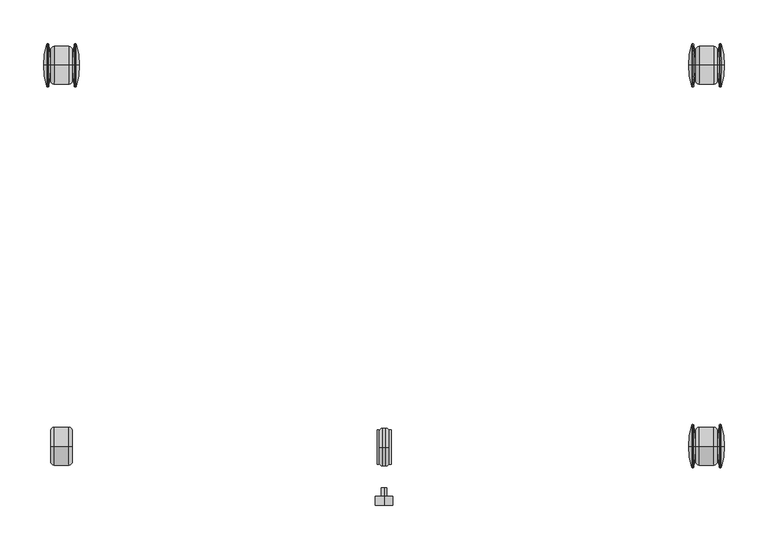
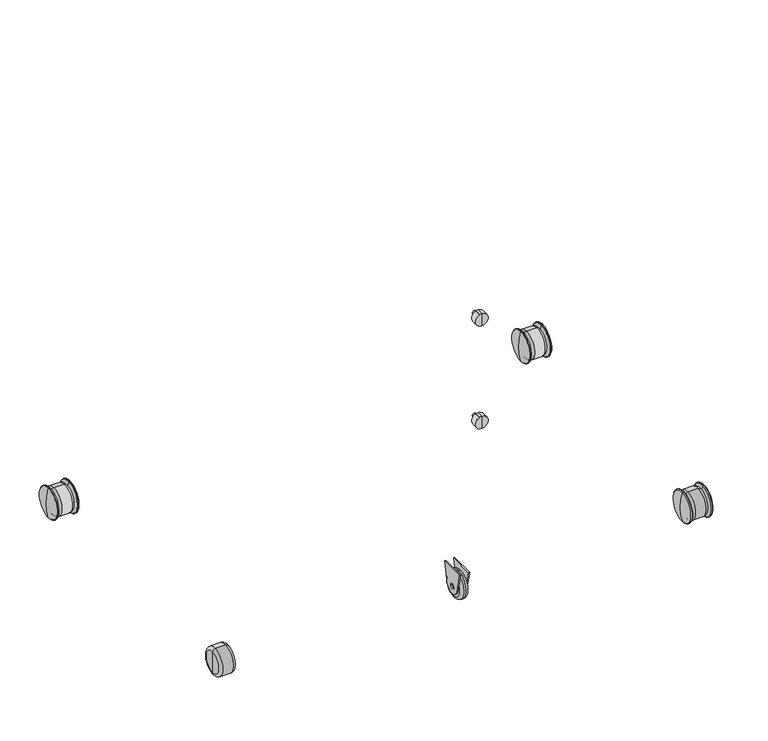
"""IFC4 building model written with IfcOpenShell, lengths in millimetres: furniture geometry, 邊櫃_002 : DB 3020N 01 W465*D550*H650."""

from ifc_helpers import new_model, si_unit, point, frame, frame_2d, origin, place, context, project, spatial, polyline, circle_curve, ellipse_curve, trimmed, segment, composite_curve, outline, extrude, source, transform, mapped, element, save
from ifc_brep_helpers import plane_surface, cylinder_surface, revolved_surface, advanced_brep


def furniture_f24e557b(model_context):
    return source(origin(), model_context, "Body", "SolidModel", [
        advanced_brep(
        [(0.0, -255.0, 326.0426092), (0.0, -255.0, 332.0426092), (0.0, -255.0, 329.0426092), (0.0, -265.0, 326.0426092), (0.0, -265.0, 332.0426092), (0.0, -265.0, 319.0426092), (0.0, -265.0, 339.0426092), (0.0, -275.0, 319.0426092), (0.0, -275.0, 339.0426092), (0.0, -275.0, 329.0426092)],
        [
            (0, 1, circle_curve(frame((0.0, -255.0, 329.0426092), z_axis=(0.0, 1.0, 0.0), x_axis=(0.0, 0.0, 1.0)), 3.0)),
            (1, 2),
            (2, 0),
            (1, 0, circle_curve(frame((0.0, -255.0, 329.0426092), z_axis=(0.0, 1.0, 0.0), x_axis=(0.0, 0.0, 1.0)), 3.0)),
            (3, 4, circle_curve(frame((0.0, -265.0, 329.0426092), z_axis=(0.0, 1.0, 0.0), x_axis=(0.0, 0.0, 1.0)), 3.0)),
            (4, 1),
            (0, 3),
            (4, 3, circle_curve(frame((0.0, -265.0, 329.0426092), z_axis=(0.0, 1.0, 0.0), x_axis=(0.0, 0.0, 1.0)), 3.0)),
            (5, 6, circle_curve(frame((0.0, -265.0, 329.0426092), z_axis=(0.0, 1.0, 0.0), x_axis=(0.0, 0.0, 1.0)), 10.0)),
            (6, 4),
            (3, 5),
            (6, 5, circle_curve(frame((0.0, -265.0, 329.0426092), z_axis=(0.0, 1.0, 0.0), x_axis=(0.0, 0.0, 1.0)), 10.0)),
            (7, 8, circle_curve(frame((0.0, -275.0, 329.0426092), z_axis=(0.0, 1.0, 0.0), x_axis=(0.0, 0.0, 1.0)), 10.0)),
            (8, 6),
            (5, 7),
            (8, 7, circle_curve(frame((0.0, -275.0, 329.0426092), z_axis=(0.0, 1.0, 0.0), x_axis=(0.0, 0.0, 1.0)), 10.0)),
            (9, 8),
            (7, 9),
        ],
        [
            plane_surface(frame((0.0, -255.0, 329.0426092), z_axis=(0.0, 1.0, 0.0), x_axis=(0.0, 0.0, 1.0))),
            cylinder_surface(frame((0.0, -207.0244863, 329.0426092), z_axis=(0.0, -1.0, 0.0), x_axis=(0.0, 0.0, 1.0)), 3.0),
            plane_surface(frame((0.0, -265.0, 329.0426092), z_axis=(0.0, 1.0, 0.0), x_axis=(0.0, 0.0, 1.0))),
            cylinder_surface(frame((0.0, -207.0244863, 329.0426092), z_axis=(0.0, -1.0, 0.0), x_axis=(0.0, 0.0, 1.0)), 10.0),
            plane_surface(frame((0.0, -275.0, 329.0426092), z_axis=(0.0, -1.0, 0.0), x_axis=(0.0, 0.0, 1.0))),
        ],
        [
            (0, [[1, 2, 3]]),
            (0, [[4, -3, -2]]),
            (1, [[5, 6, -1, 7]]),
            (1, [[8, -7, -4, -6]]),
            (2, [[9, 10, -5, 11]]),
            (2, [[12, -11, -8, -10]]),
            (3, [[13, 14, -9, 15]]),
            (3, [[16, -15, -12, -14]]),
            (4, [[17, -13, 18]]),
            (4, [[-18, -16, -17]]),
        ],
    ),
        advanced_brep(
        [(0.0, -255.0, 496.0426092), (0.0, -255.0, 502.0426092), (0.0, -255.0, 499.0426092), (0.0, -265.0, 496.0426092), (0.0, -265.0, 502.0426092), (0.0, -265.0, 489.0426092), (0.0, -265.0, 509.0426092), (0.0, -275.0, 489.0426092), (0.0, -275.0, 509.0426092), (0.0, -275.0, 499.0426092)],
        [
            (0, 1, circle_curve(frame((0.0, -255.0, 499.0426092), z_axis=(0.0, 1.0, 0.0), x_axis=(0.0, 0.0, 1.0)), 3.0)),
            (1, 2),
            (2, 0),
            (1, 0, circle_curve(frame((0.0, -255.0, 499.0426092), z_axis=(0.0, 1.0, 0.0), x_axis=(0.0, 0.0, 1.0)), 3.0)),
            (3, 4, circle_curve(frame((0.0, -265.0, 499.0426092), z_axis=(0.0, 1.0, 0.0), x_axis=(0.0, 0.0, 1.0)), 3.0)),
            (4, 1),
            (0, 3),
            (4, 3, circle_curve(frame((0.0, -265.0, 499.0426092), z_axis=(0.0, 1.0, 0.0), x_axis=(0.0, 0.0, 1.0)), 3.0)),
            (5, 6, circle_curve(frame((0.0, -265.0, 499.0426092), z_axis=(0.0, 1.0, 0.0), x_axis=(0.0, 0.0, 1.0)), 10.0)),
            (6, 4),
            (3, 5),
            (6, 5, circle_curve(frame((0.0, -265.0, 499.0426092), z_axis=(0.0, 1.0, 0.0), x_axis=(0.0, 0.0, 1.0)), 10.0)),
            (7, 8, circle_curve(frame((0.0, -275.0, 499.0426092), z_axis=(0.0, 1.0, 0.0), x_axis=(0.0, 0.0, 1.0)), 10.0)),
            (8, 6),
            (5, 7),
            (8, 7, circle_curve(frame((0.0, -275.0, 499.0426092), z_axis=(0.0, 1.0, 0.0), x_axis=(0.0, 0.0, 1.0)), 10.0)),
            (9, 8),
            (7, 9),
        ],
        [
            plane_surface(frame((0.0, -255.0, 499.0426092), z_axis=(0.0, 1.0, 0.0), x_axis=(0.0, 0.0, 1.0))),
            cylinder_surface(frame((0.0, -207.0244863, 499.0426092), z_axis=(0.0, -1.0, 0.0), x_axis=(0.0, 0.0, 1.0)), 3.0),
            plane_surface(frame((0.0, -265.0, 499.0426092), z_axis=(0.0, 1.0, 0.0), x_axis=(0.0, 0.0, 1.0))),
            cylinder_surface(frame((0.0, -207.0244863, 499.0426092), z_axis=(0.0, -1.0, 0.0), x_axis=(0.0, 0.0, 1.0)), 10.0),
            plane_surface(frame((0.0, -275.0, 499.0426092), z_axis=(0.0, -1.0, 0.0), x_axis=(0.0, 0.0, 1.0))),
        ],
        [
            (0, [[1, 2, 3]]),
            (0, [[4, -3, -2]]),
            (1, [[5, 6, -1, 7]]),
            (1, [[8, -7, -4, -6]]),
            (2, [[9, 10, -5, 11]]),
            (2, [[12, -11, -8, -10]]),
            (3, [[13, 14, -9, 15]]),
            (3, [[16, -15, -12, -14]]),
            (4, [[17, -13, 18]]),
            (4, [[-18, -16, -17]]),
        ],
    ),
        advanced_brep(
        [(-382.3516764, 229.9314061, 7.5748995), (-382.3516764, 229.9314061, 42.4251005), (-382.3516764, 229.9314061, 25.0), (-377.9840927, 229.9314061, 3.2073158), (-377.9840927, 229.9314061, 46.7926842), (-361.7150568, 229.9314061, 3.2073158), (-361.7150568, 229.9314061, 46.7926842), (-357.3474732, 229.9314061, 7.5748995), (-357.3474732, 229.9314061, 42.4251005), (-357.3474732, 229.9314061, 25.0)],
        [
            (0, 1, circle_curve(frame((-382.3516764, 229.9314061, 25.0), z_axis=(-1.0, 0.0, 0.0), x_axis=(0.0, 0.0, 1.0)), 17.4251005)),
            (1, 2),
            (2, 0),
            (1, 0, circle_curve(frame((-382.3516764, 229.9314061, 25.0), z_axis=(-1.0, 0.0, 0.0), x_axis=(0.0, 0.0, 1.0)), 17.4251005)),
            (3, 4, circle_curve(frame((-377.9840927, 229.9314061, 25.0), z_axis=(-1.0, 0.0, 0.0), x_axis=(0.0, 0.0, 1.0)), 21.7926842)),
            (4, 1, circle_curve(frame((-377.9840927, 229.9314061, 42.4251005), z_axis=(0.0, -1.0, 0.0), x_axis=(1.0, 0.0, 0.0)), 4.3675837)),
            (0, 3, circle_curve(frame((-377.9840927, 229.9314061, 7.5748995), z_axis=(0.0, -1.0, 0.0), x_axis=(1.0, 0.0, 0.0)), 4.3675837)),
            (4, 3, circle_curve(frame((-377.9840927, 229.9314061, 25.0), z_axis=(-1.0, 0.0, 0.0), x_axis=(0.0, 0.0, 1.0)), 21.7926842)),
            (5, 6, circle_curve(frame((-361.7150568, 229.9314061, 25.0), z_axis=(-1.0, 0.0, 0.0), x_axis=(0.0, 0.0, 1.0)), 21.7926842)),
            (6, 4),
            (3, 5),
            (6, 5, circle_curve(frame((-361.7150568, 229.9314061, 25.0), z_axis=(-1.0, 0.0, 0.0), x_axis=(0.0, 0.0, 1.0)), 21.7926842)),
            (7, 8, circle_curve(frame((-357.3474732, 229.9314061, 25.0), z_axis=(-1.0, 0.0, 0.0), x_axis=(0.0, 0.0, 1.0)), 17.4251005)),
            (8, 6, circle_curve(frame((-361.7150568, 229.9314061, 42.4251005), z_axis=(0.0, -1.0, 0.0), x_axis=(1.0, 0.0, 0.0)), 4.3675837)),
            (5, 7, circle_curve(frame((-361.7150568, 229.9314061, 7.5748995), z_axis=(0.0, -1.0, 0.0), x_axis=(1.0, 0.0, 0.0)), 4.3675837)),
            (8, 7, circle_curve(frame((-357.3474732, 229.9314061, 25.0), z_axis=(-1.0, 0.0, 0.0), x_axis=(0.0, 0.0, 1.0)), 17.4251005)),
            (9, 8),
            (7, 9),
        ],
        [
            plane_surface(frame((-382.3516764, 229.9314061, 25.0), z_axis=(-1.0, 0.0, 0.0), x_axis=(0.0, 0.0, 1.0))),
            revolved_surface(trimmed(ellipse_curve(frame((-377.9840927, 229.9314061, 42.4251005), z_axis=(0.0, 1.0, 0.0), x_axis=(1.0, 0.0, 0.0)), 4.3675837, 4.3675837), [point((-382.3516764, 229.9314061, 42.4251005))], [point((-377.9840927, 229.9314061, 46.7926842))], True, "CARTESIAN"), (-387.3531321, 229.9314061, 25.0), (1.0, 0.0, 0.0)),
            cylinder_surface(frame((-387.3531321, 229.9314061, 25.0), z_axis=(1.0, 0.0, 0.0), x_axis=(0.0, 0.0, 1.0)), 21.7926842),
            revolved_surface(trimmed(ellipse_curve(frame((-361.7150568, 229.9314061, 42.4251005), z_axis=(0.0, 1.0, 0.0), x_axis=(1.0, 0.0, 0.0)), 4.3675837, 4.3675837), [point((-361.7150568, 229.9314061, 46.7926842))], [point((-357.3474732, 229.9314061, 42.4251005))], True, "CARTESIAN"), (-387.3531321, 229.9314061, 25.0), (1.0, 0.0, 0.0)),
            plane_surface(frame((-357.3474732, 229.9314061, 25.0), z_axis=(1.0, 0.0, 0.0), x_axis=(0.0, 0.0, 1.0))),
        ],
        [
            (0, [[1, 2, 3]]),
            (0, [[4, -3, -2]]),
            (1, [[5, 6, -1, 7]]),
            (1, [[8, -7, -4, -6]]),
            (2, [[9, 10, -5, 11]]),
            (2, [[12, -11, -8, -10]]),
            (3, [[13, 14, -9, 15]]),
            (3, [[16, -15, -12, -14]]),
            (4, [[17, -13, 18]]),
            (4, [[-18, -16, -17]]),
        ],
    ),
        advanced_brep(
        [(-384.4267212, 229.9314061, 0.7780833), (-384.4267212, 229.9314061, 49.2219167), (-385.6835252, 229.9314061, 50.0), (-385.6835252, 229.9314061, 0.0), (-382.3516764, 229.9314061, 25.0), (-386.9403292, 229.9314061, 0.7780833), (-386.9403292, 229.9314061, 49.2219167), (-390.4120984, 229.9314061, 25.0)],
        [
            (0, 1, circle_curve(frame((-384.4267212, 229.9314061, 25.0), z_axis=(-1.0, 0.0, 0.0), x_axis=(0.0, 0.0, 1.0)), 24.2219167)),
            (1, 2, circle_curve(frame((-385.9583731, 229.9314061, 48.1519781), z_axis=(0.0, -1.0, 0.0), x_axis=(1.0, 0.0, 0.0)), 1.8683485)),
            (2, 3, circle_curve(frame((-385.6835252, 229.9314061, 25.0), z_axis=(1.0, 0.0, 0.0), x_axis=(0.0, 0.0, 1.0)), 25.0)),
            (3, 0, circle_curve(frame((-385.9583731, 229.9314061, 1.8480219), z_axis=(0.0, -1.0, 0.0), x_axis=(1.0, 0.0, 0.0)), 1.8683485)),
            (1, 0, circle_curve(frame((-384.4267212, 229.9314061, 25.0), z_axis=(-1.0, 0.0, 0.0), x_axis=(0.0, 0.0, 1.0)), 24.2219167)),
            (3, 2, circle_curve(frame((-385.6835252, 229.9314061, 25.0), z_axis=(1.0, 0.0, 0.0), x_axis=(0.0, 0.0, 1.0)), 25.0)),
            (4, 1, circle_curve(frame((-524.7599405, 229.9314061, 25.0), z_axis=(0.0, -1.0, 0.0), x_axis=(1.0, 0.0, 0.0)), 142.4082641)),
            (0, 4, circle_curve(frame((-524.7599405, 229.9314061, 25.0), z_axis=(0.0, -1.0, 0.0), x_axis=(1.0, 0.0, 0.0)), 142.4082641)),
            (5, 6, circle_curve(frame((-386.9403292, 229.9314061, 25.0), z_axis=(-1.0, 0.0, 0.0), x_axis=(0.0, 0.0, 1.0)), 24.2219167)),
            (6, 7, circle_curve(frame((-304.1802104, 229.9314061, 25.0), z_axis=(0.0, -1.0, 0.0), x_axis=(1.0, 0.0, 0.0)), 86.231888)),
            (7, 5, circle_curve(frame((-304.1802104, 229.9314061, 25.0), z_axis=(0.0, -1.0, 0.0), x_axis=(1.0, 0.0, 0.0)), 86.231888)),
            (6, 5, circle_curve(frame((-386.9403292, 229.9314061, 25.0), z_axis=(-1.0, 0.0, 0.0), x_axis=(0.0, 0.0, 1.0)), 24.2219167)),
            (2, 6, circle_curve(frame((-385.4086773, 229.9314061, 48.1519781), z_axis=(0.0, -1.0, 0.0), x_axis=(1.0, 0.0, 0.0)), 1.8683485)),
            (5, 3, circle_curve(frame((-385.4086773, 229.9314061, 1.8480219), z_axis=(0.0, -1.0, 0.0), x_axis=(1.0, 0.0, 0.0)), 1.8683485)),
        ],
        [
            revolved_surface(trimmed(ellipse_curve(frame((-385.9583731, 229.9314061, 48.1519781), z_axis=(0.0, 1.0, 0.0), x_axis=(1.0, 0.0, 0.0)), 1.8683485, 1.8683485), [point((-385.6835252, 229.9314061, 50.0))], [point((-384.4267212, 229.9314061, 49.2219167))], True, "CARTESIAN"), (-402.328562, 229.9314061, 25.0), (1.0, 0.0, 0.0)),
            revolved_surface(trimmed(ellipse_curve(frame((-524.7599405, 229.9314061, 25.0), z_axis=(0.0, 1.0, 0.0), x_axis=(1.0, 0.0, 0.0)), 142.4082641, 142.4082641), [point((-384.4267212, 229.9314061, 49.2219167))], [point((-382.3516764, 229.9314061, 25.0))], True, "CARTESIAN"), (-402.328562, 229.9314061, 25.0), (1.0, 0.0, 0.0)),
            revolved_surface(trimmed(ellipse_curve(frame((-304.1802104, 229.9314061, 25.0), z_axis=(0.0, 1.0, 0.0), x_axis=(1.0, 0.0, 0.0)), 86.231888, 86.231888), [point((-390.4120984, 229.9314061, 25.0))], [point((-386.9403292, 229.9314061, 49.2219167))], True, "CARTESIAN"), (-402.328562, 229.9314061, 25.0), (1.0, 0.0, 0.0)),
            revolved_surface(trimmed(ellipse_curve(frame((-385.4086773, 229.9314061, 48.1519781), z_axis=(0.0, 1.0, 0.0), x_axis=(1.0, 0.0, 0.0)), 1.8683485, 1.8683485), [point((-386.9403292, 229.9314061, 49.2219167))], [point((-385.6835252, 229.9314061, 50.0))], True, "CARTESIAN"), (-402.328562, 229.9314061, 25.0), (1.0, 0.0, 0.0)),
        ],
        [
            (0, [[1, 2, 3, 4]]),
            (0, [[5, -4, 6, -2]]),
            (1, [[7, -1, 8]]),
            (1, [[-8, -5, -7]]),
            (2, [[9, 10, 11]]),
            (2, [[12, -11, -10]]),
            (3, [[-3, 13, -9, 14]]),
            (3, [[-6, -14, -12, -13]]),
        ],
    ),
        advanced_brep(
        [(-352.7588203, 229.9314061, 0.7780833), (-352.7588203, 229.9314061, 49.2219167), (-354.0156243, 229.9314061, 50.0), (-354.0156243, 229.9314061, 0.0), (-349.2870511, 229.9314061, 25.0), (-355.2724283, 229.9314061, 0.7780833), (-355.2724283, 229.9314061, 49.2219167), (-357.3474732, 229.9314061, 25.0)],
        [
            (0, 1, circle_curve(frame((-352.7588203, 229.9314061, 25.0), z_axis=(-1.0, 0.0, 0.0), x_axis=(0.0, 0.0, 1.0)), 24.2219167)),
            (1, 2, circle_curve(frame((-354.2904722, 229.9314061, 48.1519781), z_axis=(0.0, -1.0, 0.0), x_axis=(1.0, 0.0, 0.0)), 1.8683485)),
            (2, 3, circle_curve(frame((-354.0156243, 229.9314061, 25.0), z_axis=(1.0, 0.0, 0.0), x_axis=(0.0, 0.0, 1.0)), 25.0)),
            (3, 0, circle_curve(frame((-354.2904722, 229.9314061, 1.8480219), z_axis=(0.0, -1.0, 0.0), x_axis=(1.0, 0.0, 0.0)), 1.8683485)),
            (1, 0, circle_curve(frame((-352.7588203, 229.9314061, 25.0), z_axis=(-1.0, 0.0, 0.0), x_axis=(0.0, 0.0, 1.0)), 24.2219167)),
            (3, 2, circle_curve(frame((-354.0156243, 229.9314061, 25.0), z_axis=(1.0, 0.0, 0.0), x_axis=(0.0, 0.0, 1.0)), 25.0)),
            (4, 1, circle_curve(frame((-435.5189391, 229.9314061, 25.0), z_axis=(0.0, -1.0, 0.0), x_axis=(1.0, 0.0, 0.0)), 86.231888)),
            (0, 4, circle_curve(frame((-435.5189391, 229.9314061, 25.0), z_axis=(0.0, -1.0, 0.0), x_axis=(1.0, 0.0, 0.0)), 86.231888)),
            (5, 6, circle_curve(frame((-355.2724283, 229.9314061, 25.0), z_axis=(-1.0, 0.0, 0.0), x_axis=(0.0, 0.0, 1.0)), 24.2219167)),
            (6, 7, circle_curve(frame((-214.939209, 229.9314061, 25.0), z_axis=(0.0, -1.0, 0.0), x_axis=(1.0, 0.0, 0.0)), 142.4082641)),
            (7, 5, circle_curve(frame((-214.939209, 229.9314061, 25.0), z_axis=(0.0, -1.0, 0.0), x_axis=(1.0, 0.0, 0.0)), 142.4082641)),
            (6, 5, circle_curve(frame((-355.2724283, 229.9314061, 25.0), z_axis=(-1.0, 0.0, 0.0), x_axis=(0.0, 0.0, 1.0)), 24.2219167)),
            (2, 6, circle_curve(frame((-353.7407764, 229.9314061, 48.1519781), z_axis=(0.0, -1.0, 0.0), x_axis=(1.0, 0.0, 0.0)), 1.8683485)),
            (5, 3, circle_curve(frame((-353.7407764, 229.9314061, 1.8480219), z_axis=(0.0, -1.0, 0.0), x_axis=(1.0, 0.0, 0.0)), 1.8683485)),
        ],
        [
            revolved_surface(trimmed(ellipse_curve(frame((-354.2904722, 229.9314061, 48.1519781), z_axis=(0.0, 1.0, 0.0), x_axis=(1.0, 0.0, 0.0)), 1.8683485, 1.8683485), [point((-354.0156243, 229.9314061, 50.0))], [point((-352.7588203, 229.9314061, 49.2219167))], True, "CARTESIAN"), (-402.328562, 229.9314061, 25.0), (1.0, 0.0, 0.0)),
            revolved_surface(trimmed(ellipse_curve(frame((-435.5189391, 229.9314061, 25.0), z_axis=(0.0, 1.0, 0.0), x_axis=(1.0, 0.0, 0.0)), 86.231888, 86.231888), [point((-352.7588203, 229.9314061, 49.2219167))], [point((-349.2870511, 229.9314061, 25.0))], True, "CARTESIAN"), (-402.328562, 229.9314061, 25.0), (1.0, 0.0, 0.0)),
            revolved_surface(trimmed(ellipse_curve(frame((-214.939209, 229.9314061, 25.0), z_axis=(0.0, 1.0, 0.0), x_axis=(1.0, 0.0, 0.0)), 142.4082641, 142.4082641), [point((-357.3474732, 229.9314061, 25.0))], [point((-355.2724283, 229.9314061, 49.2219167))], True, "CARTESIAN"), (-402.328562, 229.9314061, 25.0), (1.0, 0.0, 0.0)),
            revolved_surface(trimmed(ellipse_curve(frame((-353.7407764, 229.9314061, 48.1519781), z_axis=(0.0, 1.0, 0.0), x_axis=(1.0, 0.0, 0.0)), 1.8683485, 1.8683485), [point((-355.2724283, 229.9314061, 49.2219167))], [point((-354.0156243, 229.9314061, 50.0))], True, "CARTESIAN"), (-402.328562, 229.9314061, 25.0), (1.0, 0.0, 0.0)),
        ],
        [
            (0, [[1, 2, 3, 4]]),
            (0, [[5, -4, 6, -2]]),
            (1, [[7, -1, 8]]),
            (1, [[-8, -5, -7]]),
            (2, [[9, 10, 11]]),
            (2, [[12, -11, -10]]),
            (3, [[-3, 13, -9, 14]]),
            (3, [[-6, -14, -12, -13]]),
        ],
    ),
        advanced_brep(
        [(357.3474732, 229.9314061, 7.5748995), (357.3474732, 229.9314061, 42.4251005), (357.3474732, 229.9314061, 25.0), (361.7150568, 229.9314061, 3.2073158), (361.7150568, 229.9314061, 46.7926842), (377.9840927, 229.9314061, 3.2073158), (377.9840927, 229.9314061, 46.7926842), (382.3516764, 229.9314061, 7.5748995), (382.3516764, 229.9314061, 42.4251005), (382.3516764, 229.9314061, 25.0)],
        [
            (0, 1, circle_curve(frame((357.3474732, 229.9314061, 25.0), z_axis=(-1.0, 0.0, 0.0), x_axis=(0.0, 0.0, 1.0)), 17.4251005)),
            (1, 2),
            (2, 0),
            (1, 0, circle_curve(frame((357.3474732, 229.9314061, 25.0), z_axis=(-1.0, 0.0, 0.0), x_axis=(0.0, 0.0, 1.0)), 17.4251005)),
            (3, 4, circle_curve(frame((361.7150568, 229.9314061, 25.0), z_axis=(-1.0, 0.0, 0.0), x_axis=(0.0, 0.0, 1.0)), 21.7926842)),
            (4, 1, circle_curve(frame((361.7150568, 229.9314061, 42.4251005), z_axis=(0.0, -1.0, 0.0), x_axis=(-1.0, 0.0, 0.0)), 4.3675837)),
            (0, 3, circle_curve(frame((361.7150568, 229.9314061, 7.5748995), z_axis=(0.0, -1.0, 0.0), x_axis=(-1.0, 0.0, 0.0)), 4.3675837)),
            (4, 3, circle_curve(frame((361.7150568, 229.9314061, 25.0), z_axis=(-1.0, 0.0, 0.0), x_axis=(0.0, 0.0, 1.0)), 21.7926842)),
            (5, 6, circle_curve(frame((377.9840927, 229.9314061, 25.0), z_axis=(-1.0, 0.0, 0.0), x_axis=(0.0, 0.0, 1.0)), 21.7926842)),
            (6, 4),
            (3, 5),
            (6, 5, circle_curve(frame((377.9840927, 229.9314061, 25.0), z_axis=(-1.0, 0.0, 0.0), x_axis=(0.0, 0.0, 1.0)), 21.7926842)),
            (7, 8, circle_curve(frame((382.3516764, 229.9314061, 25.0), z_axis=(-1.0, 0.0, 0.0), x_axis=(0.0, 0.0, 1.0)), 17.4251005)),
            (8, 6, circle_curve(frame((377.9840927, 229.9314061, 42.4251005), z_axis=(0.0, -1.0, 0.0), x_axis=(-1.0, 0.0, 0.0)), 4.3675837)),
            (5, 7, circle_curve(frame((377.9840927, 229.9314061, 7.5748995), z_axis=(0.0, -1.0, 0.0), x_axis=(-1.0, 0.0, 0.0)), 4.3675837)),
            (8, 7, circle_curve(frame((382.3516764, 229.9314061, 25.0), z_axis=(-1.0, 0.0, 0.0), x_axis=(0.0, 0.0, 1.0)), 17.4251005)),
            (9, 8),
            (7, 9),
        ],
        [
            plane_surface(frame((357.3474732, 229.9314061, 25.0), z_axis=(-1.0, 0.0, 0.0), x_axis=(0.0, 0.0, 1.0))),
            revolved_surface(trimmed(ellipse_curve(frame((361.7150568, 229.9314061, 42.4251005), z_axis=(0.0, 1.0, 0.0), x_axis=(-1.0, 0.0, 0.0)), 4.3675837, 4.3675837), [point((357.3474732, 229.9314061, 42.4251005))], [point((361.7150568, 229.9314061, 46.7926842))], True, "CARTESIAN"), (387.3531321, 229.9314061, 25.0), (1.0, 0.0, 0.0)),
            cylinder_surface(frame((387.3531321, 229.9314061, 25.0), z_axis=(1.0, 0.0, 0.0), x_axis=(0.0, 0.0, 1.0)), 21.7926842),
            revolved_surface(trimmed(ellipse_curve(frame((377.9840927, 229.9314061, 42.4251005), z_axis=(0.0, 1.0, 0.0), x_axis=(-1.0, 0.0, 0.0)), 4.3675837, 4.3675837), [point((377.9840927, 229.9314061, 46.7926842))], [point((382.3516764, 229.9314061, 42.4251005))], True, "CARTESIAN"), (387.3531321, 229.9314061, 25.0), (1.0, 0.0, 0.0)),
            plane_surface(frame((382.3516764, 229.9314061, 25.0), z_axis=(1.0, 0.0, 0.0), x_axis=(0.0, 0.0, 1.0))),
        ],
        [
            (0, [[1, 2, 3]]),
            (0, [[4, -3, -2]]),
            (1, [[5, 6, -1, 7]]),
            (1, [[8, -7, -4, -6]]),
            (2, [[9, 10, -5, 11]]),
            (2, [[12, -11, -8, -10]]),
            (3, [[13, 14, -9, 15]]),
            (3, [[16, -15, -12, -14]]),
            (4, [[17, -13, 18]]),
            (4, [[-18, -16, -17]]),
        ],
    ),
        advanced_brep(
        [(386.9403292, 229.9314061, 0.7780833), (386.9403292, 229.9314061, 49.2219167), (385.6835252, 229.9314061, 50.0), (385.6835252, 229.9314061, 0.0), (390.4120984, 229.9314061, 25.0), (384.4267212, 229.9314061, 0.7780833), (384.4267212, 229.9314061, 49.2219167), (382.3516764, 229.9314061, 25.0)],
        [
            (0, 1, circle_curve(frame((386.9403292, 229.9314061, 25.0), z_axis=(-1.0, 0.0, 0.0), x_axis=(0.0, 0.0, 1.0)), 24.2219167)),
            (1, 2, circle_curve(frame((385.4086773, 229.9314061, 48.1519781), z_axis=(0.0, -1.0, 0.0), x_axis=(-1.0, 0.0, 0.0)), 1.8683485)),
            (2, 3, circle_curve(frame((385.6835252, 229.9314061, 25.0), z_axis=(1.0, 0.0, 0.0), x_axis=(0.0, 0.0, 1.0)), 25.0)),
            (3, 0, circle_curve(frame((385.4086773, 229.9314061, 1.8480219), z_axis=(0.0, -1.0, 0.0), x_axis=(-1.0, 0.0, 0.0)), 1.8683485)),
            (1, 0, circle_curve(frame((386.9403292, 229.9314061, 25.0), z_axis=(-1.0, 0.0, 0.0), x_axis=(0.0, 0.0, 1.0)), 24.2219167)),
            (3, 2, circle_curve(frame((385.6835252, 229.9314061, 25.0), z_axis=(1.0, 0.0, 0.0), x_axis=(0.0, 0.0, 1.0)), 25.0)),
            (4, 1, circle_curve(frame((304.1802104, 229.9314061, 25.0), z_axis=(0.0, -1.0, 0.0), x_axis=(-1.0, 0.0, 0.0)), 86.231888)),
            (0, 4, circle_curve(frame((304.1802104, 229.9314061, 25.0), z_axis=(0.0, -1.0, 0.0), x_axis=(-1.0, 0.0, 0.0)), 86.231888)),
            (5, 6, circle_curve(frame((384.4267212, 229.9314061, 25.0), z_axis=(-1.0, 0.0, 0.0), x_axis=(0.0, 0.0, 1.0)), 24.2219167)),
            (6, 7, circle_curve(frame((524.7599405, 229.9314061, 25.0), z_axis=(0.0, -1.0, 0.0), x_axis=(-1.0, 0.0, 0.0)), 142.4082641)),
            (7, 5, circle_curve(frame((524.7599405, 229.9314061, 25.0), z_axis=(0.0, -1.0, 0.0), x_axis=(-1.0, 0.0, 0.0)), 142.4082641)),
            (6, 5, circle_curve(frame((384.4267212, 229.9314061, 25.0), z_axis=(-1.0, 0.0, 0.0), x_axis=(0.0, 0.0, 1.0)), 24.2219167)),
            (2, 6, circle_curve(frame((385.9583731, 229.9314061, 48.1519781), z_axis=(0.0, -1.0, 0.0), x_axis=(-1.0, 0.0, 0.0)), 1.8683485)),
            (5, 3, circle_curve(frame((385.9583731, 229.9314061, 1.8480219), z_axis=(0.0, -1.0, 0.0), x_axis=(-1.0, 0.0, 0.0)), 1.8683485)),
        ],
        [
            revolved_surface(trimmed(ellipse_curve(frame((385.4086773, 229.9314061, 48.1519781), z_axis=(0.0, 1.0, 0.0), x_axis=(-1.0, 0.0, 0.0)), 1.8683485, 1.8683485), [point((385.6835252, 229.9314061, 50.0))], [point((386.9403292, 229.9314061, 49.2219167))], True, "CARTESIAN"), (402.328562, 229.9314061, 25.0), (1.0, 0.0, 0.0)),
            revolved_surface(trimmed(ellipse_curve(frame((304.1802104, 229.9314061, 25.0), z_axis=(0.0, 1.0, 0.0), x_axis=(-1.0, 0.0, 0.0)), 86.231888, 86.231888), [point((386.9403292, 229.9314061, 49.2219167))], [point((390.4120984, 229.9314061, 25.0))], True, "CARTESIAN"), (402.328562, 229.9314061, 25.0), (1.0, 0.0, 0.0)),
            revolved_surface(trimmed(ellipse_curve(frame((524.7599405, 229.9314061, 25.0), z_axis=(0.0, 1.0, 0.0), x_axis=(-1.0, 0.0, 0.0)), 142.4082641, 142.4082641), [point((382.3516764, 229.9314061, 25.0))], [point((384.4267212, 229.9314061, 49.2219167))], True, "CARTESIAN"), (402.328562, 229.9314061, 25.0), (1.0, 0.0, 0.0)),
            revolved_surface(trimmed(ellipse_curve(frame((385.9583731, 229.9314061, 48.1519781), z_axis=(0.0, 1.0, 0.0), x_axis=(-1.0, 0.0, 0.0)), 1.8683485, 1.8683485), [point((384.4267212, 229.9314061, 49.2219167))], [point((385.6835252, 229.9314061, 50.0))], True, "CARTESIAN"), (402.328562, 229.9314061, 25.0), (1.0, 0.0, 0.0)),
        ],
        [
            (0, [[1, 2, 3, 4]]),
            (0, [[5, -4, 6, -2]]),
            (1, [[7, -1, 8]]),
            (1, [[-8, -5, -7]]),
            (2, [[9, 10, 11]]),
            (2, [[12, -11, -10]]),
            (3, [[-3, 13, -9, 14]]),
            (3, [[-6, -14, -12, -13]]),
        ],
    ),
        advanced_brep(
        [(355.2724283, 229.9314061, 0.7780833), (355.2724283, 229.9314061, 49.2219167), (354.0156243, 229.9314061, 50.0), (354.0156243, 229.9314061, 0.0), (357.3474732, 229.9314061, 25.0), (352.7588203, 229.9314061, 0.7780833), (352.7588203, 229.9314061, 49.2219167), (349.2870511, 229.9314061, 25.0)],
        [
            (0, 1, circle_curve(frame((355.2724283, 229.9314061, 25.0), z_axis=(-1.0, 0.0, 0.0), x_axis=(0.0, 0.0, 1.0)), 24.2219167)),
            (1, 2, circle_curve(frame((353.7407764, 229.9314061, 48.1519781), z_axis=(0.0, -1.0, 0.0), x_axis=(-1.0, 0.0, 0.0)), 1.8683485)),
            (2, 3, circle_curve(frame((354.0156243, 229.9314061, 25.0), z_axis=(1.0, 0.0, 0.0), x_axis=(0.0, 0.0, 1.0)), 25.0)),
            (3, 0, circle_curve(frame((353.7407764, 229.9314061, 1.8480219), z_axis=(0.0, -1.0, 0.0), x_axis=(-1.0, 0.0, 0.0)), 1.8683485)),
            (1, 0, circle_curve(frame((355.2724283, 229.9314061, 25.0), z_axis=(-1.0, 0.0, 0.0), x_axis=(0.0, 0.0, 1.0)), 24.2219167)),
            (3, 2, circle_curve(frame((354.0156243, 229.9314061, 25.0), z_axis=(1.0, 0.0, 0.0), x_axis=(0.0, 0.0, 1.0)), 25.0)),
            (4, 1, circle_curve(frame((214.939209, 229.9314061, 25.0), z_axis=(0.0, -1.0, 0.0), x_axis=(-1.0, 0.0, 0.0)), 142.4082641)),
            (0, 4, circle_curve(frame((214.939209, 229.9314061, 25.0), z_axis=(0.0, -1.0, 0.0), x_axis=(-1.0, 0.0, 0.0)), 142.4082641)),
            (5, 6, circle_curve(frame((352.7588203, 229.9314061, 25.0), z_axis=(-1.0, 0.0, 0.0), x_axis=(0.0, 0.0, 1.0)), 24.2219167)),
            (6, 7, circle_curve(frame((435.5189391, 229.9314061, 25.0), z_axis=(0.0, -1.0, 0.0), x_axis=(-1.0, 0.0, 0.0)), 86.231888)),
            (7, 5, circle_curve(frame((435.5189391, 229.9314061, 25.0), z_axis=(0.0, -1.0, 0.0), x_axis=(-1.0, 0.0, 0.0)), 86.231888)),
            (6, 5, circle_curve(frame((352.7588203, 229.9314061, 25.0), z_axis=(-1.0, 0.0, 0.0), x_axis=(0.0, 0.0, 1.0)), 24.2219167)),
            (2, 6, circle_curve(frame((354.2904722, 229.9314061, 48.1519781), z_axis=(0.0, -1.0, 0.0), x_axis=(-1.0, 0.0, 0.0)), 1.8683485)),
            (5, 3, circle_curve(frame((354.2904722, 229.9314061, 1.8480219), z_axis=(0.0, -1.0, 0.0), x_axis=(-1.0, 0.0, 0.0)), 1.8683485)),
        ],
        [
            revolved_surface(trimmed(ellipse_curve(frame((353.7407764, 229.9314061, 48.1519781), z_axis=(0.0, 1.0, 0.0), x_axis=(-1.0, 0.0, 0.0)), 1.8683485, 1.8683485), [point((354.0156243, 229.9314061, 50.0))], [point((355.2724283, 229.9314061, 49.2219167))], True, "CARTESIAN"), (402.328562, 229.9314061, 25.0), (1.0, 0.0, 0.0)),
            revolved_surface(trimmed(ellipse_curve(frame((214.939209, 229.9314061, 25.0), z_axis=(0.0, 1.0, 0.0), x_axis=(-1.0, 0.0, 0.0)), 142.4082641, 142.4082641), [point((355.2724283, 229.9314061, 49.2219167))], [point((357.3474732, 229.9314061, 25.0))], True, "CARTESIAN"), (402.328562, 229.9314061, 25.0), (1.0, 0.0, 0.0)),
            revolved_surface(trimmed(ellipse_curve(frame((435.5189391, 229.9314061, 25.0), z_axis=(0.0, 1.0, 0.0), x_axis=(-1.0, 0.0, 0.0)), 86.231888, 86.231888), [point((349.2870511, 229.9314061, 25.0))], [point((352.7588203, 229.9314061, 49.2219167))], True, "CARTESIAN"), (402.328562, 229.9314061, 25.0), (1.0, 0.0, 0.0)),
            revolved_surface(trimmed(ellipse_curve(frame((354.2904722, 229.9314061, 48.1519781), z_axis=(0.0, 1.0, 0.0), x_axis=(-1.0, 0.0, 0.0)), 1.8683485, 1.8683485), [point((352.7588203, 229.9314061, 49.2219167))], [point((354.0156243, 229.9314061, 50.0))], True, "CARTESIAN"), (402.328562, 229.9314061, 25.0), (1.0, 0.0, 0.0)),
        ],
        [
            (0, [[1, 2, 3, 4]]),
            (0, [[5, -4, 6, -2]]),
            (1, [[7, -1, 8]]),
            (1, [[-8, -5, -7]]),
            (2, [[9, 10, 11]]),
            (2, [[12, -11, -10]]),
            (3, [[-3, 13, -9, 14]]),
            (3, [[-6, -14, -12, -13]]),
        ],
    ),
        advanced_brep(
        [(382.3516764, -207.3156332, 7.5748995), (382.3516764, -207.3156332, 42.4251005), (382.3516764, -207.3156332, 25.0), (377.9840927, -207.3156332, 3.2073158), (377.9840927, -207.3156332, 46.7926842), (361.7150568, -207.3156332, 3.2073158), (361.7150568, -207.3156332, 46.7926842), (357.3474732, -207.3156332, 7.5748995), (357.3474732, -207.3156332, 42.4251005), (357.3474732, -207.3156332, 25.0)],
        [
            (0, 1, circle_curve(frame((382.3516764, -207.3156332, 25.0), z_axis=(1.0, 0.0, 0.0), x_axis=(0.0, 0.0, 1.0)), 17.4251005)),
            (1, 2),
            (2, 0),
            (1, 0, circle_curve(frame((382.3516764, -207.3156332, 25.0), z_axis=(1.0, 0.0, 0.0), x_axis=(0.0, 0.0, 1.0)), 17.4251005)),
            (3, 4, circle_curve(frame((377.9840927, -207.3156332, 25.0), z_axis=(1.0, 0.0, 0.0), x_axis=(0.0, 0.0, 1.0)), 21.7926842)),
            (4, 1, circle_curve(frame((377.9840927, -207.3156332, 42.4251005), z_axis=(0.0, 1.0, 0.0), x_axis=(-1.0, 0.0, 0.0)), 4.3675837)),
            (0, 3, circle_curve(frame((377.9840927, -207.3156332, 7.5748995), z_axis=(0.0, 1.0, 0.0), x_axis=(-1.0, 0.0, 0.0)), 4.3675837)),
            (4, 3, circle_curve(frame((377.9840927, -207.3156332, 25.0), z_axis=(1.0, 0.0, 0.0), x_axis=(0.0, 0.0, 1.0)), 21.7926842)),
            (5, 6, circle_curve(frame((361.7150568, -207.3156332, 25.0), z_axis=(1.0, 0.0, 0.0), x_axis=(0.0, 0.0, 1.0)), 21.7926842)),
            (6, 4),
            (3, 5),
            (6, 5, circle_curve(frame((361.7150568, -207.3156332, 25.0), z_axis=(1.0, 0.0, 0.0), x_axis=(0.0, 0.0, 1.0)), 21.7926842)),
            (7, 8, circle_curve(frame((357.3474732, -207.3156332, 25.0), z_axis=(1.0, 0.0, 0.0), x_axis=(0.0, 0.0, 1.0)), 17.4251005)),
            (8, 6, circle_curve(frame((361.7150568, -207.3156332, 42.4251005), z_axis=(0.0, 1.0, 0.0), x_axis=(-1.0, 0.0, 0.0)), 4.3675837)),
            (5, 7, circle_curve(frame((361.7150568, -207.3156332, 7.5748995), z_axis=(0.0, 1.0, 0.0), x_axis=(-1.0, 0.0, 0.0)), 4.3675837)),
            (8, 7, circle_curve(frame((357.3474732, -207.3156332, 25.0), z_axis=(1.0, 0.0, 0.0), x_axis=(0.0, 0.0, 1.0)), 17.4251005)),
            (9, 8),
            (7, 9),
        ],
        [
            plane_surface(frame((382.3516764, -207.3156332, 25.0), z_axis=(1.0, 0.0, 0.0), x_axis=(0.0, 0.0, 1.0))),
            revolved_surface(trimmed(ellipse_curve(frame((377.9840927, -207.3156332, 42.4251005), z_axis=(0.0, -1.0, 0.0), x_axis=(-1.0, 0.0, 0.0)), 4.3675837, 4.3675837), [point((382.3516764, -207.3156332, 42.4251005))], [point((377.9840927, -207.3156332, 46.7926842))], True, "CARTESIAN"), (387.3531321, -207.3156332, 25.0), (-1.0, 0.0, 0.0)),
            cylinder_surface(frame((387.3531321, -207.3156332, 25.0), z_axis=(-1.0, 0.0, 0.0), x_axis=(0.0, 0.0, 1.0)), 21.7926842),
            revolved_surface(trimmed(ellipse_curve(frame((361.7150568, -207.3156332, 42.4251005), z_axis=(0.0, -1.0, 0.0), x_axis=(-1.0, 0.0, 0.0)), 4.3675837, 4.3675837), [point((361.7150568, -207.3156332, 46.7926842))], [point((357.3474732, -207.3156332, 42.4251005))], True, "CARTESIAN"), (387.3531321, -207.3156332, 25.0), (-1.0, 0.0, 0.0)),
            plane_surface(frame((357.3474732, -207.3156332, 25.0), z_axis=(-1.0, 0.0, 0.0), x_axis=(0.0, 0.0, 1.0))),
        ],
        [
            (0, [[1, 2, 3]]),
            (0, [[4, -3, -2]]),
            (1, [[5, 6, -1, 7]]),
            (1, [[8, -7, -4, -6]]),
            (2, [[9, 10, -5, 11]]),
            (2, [[12, -11, -8, -10]]),
            (3, [[13, 14, -9, 15]]),
            (3, [[16, -15, -12, -14]]),
            (4, [[17, -13, 18]]),
            (4, [[-18, -16, -17]]),
        ],
    ),
        advanced_brep(
        [(384.4267212, -207.3156332, 0.7780833), (384.4267212, -207.3156332, 49.2219167), (385.6835252, -207.3156332, 50.0), (385.6835252, -207.3156332, 0.0), (382.3516764, -207.3156332, 25.0), (386.9403292, -207.3156332, 0.7780833), (386.9403292, -207.3156332, 49.2219167), (390.4120984, -207.3156332, 25.0)],
        [
            (0, 1, circle_curve(frame((384.4267212, -207.3156332, 25.0), z_axis=(1.0, 0.0, 0.0), x_axis=(0.0, 0.0, 1.0)), 24.2219167)),
            (1, 2, circle_curve(frame((385.9583731, -207.3156332, 48.1519781), z_axis=(0.0, 1.0, 0.0), x_axis=(-1.0, 0.0, 0.0)), 1.8683485)),
            (2, 3, circle_curve(frame((385.6835252, -207.3156332, 25.0), z_axis=(-1.0, 0.0, 0.0), x_axis=(0.0, 0.0, 1.0)), 25.0)),
            (3, 0, circle_curve(frame((385.9583731, -207.3156332, 1.8480219), z_axis=(0.0, 1.0, 0.0), x_axis=(-1.0, 0.0, 0.0)), 1.8683485)),
            (1, 0, circle_curve(frame((384.4267212, -207.3156332, 25.0), z_axis=(1.0, 0.0, 0.0), x_axis=(0.0, 0.0, 1.0)), 24.2219167)),
            (3, 2, circle_curve(frame((385.6835252, -207.3156332, 25.0), z_axis=(-1.0, 0.0, 0.0), x_axis=(0.0, 0.0, 1.0)), 25.0)),
            (4, 1, circle_curve(frame((524.7599405, -207.3156332, 25.0), z_axis=(0.0, 1.0, 0.0), x_axis=(-1.0, 0.0, 0.0)), 142.4082641)),
            (0, 4, circle_curve(frame((524.7599405, -207.3156332, 25.0), z_axis=(0.0, 1.0, 0.0), x_axis=(-1.0, 0.0, 0.0)), 142.4082641)),
            (5, 6, circle_curve(frame((386.9403292, -207.3156332, 25.0), z_axis=(1.0, 0.0, 0.0), x_axis=(0.0, 0.0, 1.0)), 24.2219167)),
            (6, 7, circle_curve(frame((304.1802104, -207.3156332, 25.0), z_axis=(0.0, 1.0, 0.0), x_axis=(-1.0, 0.0, 0.0)), 86.231888)),
            (7, 5, circle_curve(frame((304.1802104, -207.3156332, 25.0), z_axis=(0.0, 1.0, 0.0), x_axis=(-1.0, 0.0, 0.0)), 86.231888)),
            (6, 5, circle_curve(frame((386.9403292, -207.3156332, 25.0), z_axis=(1.0, 0.0, 0.0), x_axis=(0.0, 0.0, 1.0)), 24.2219167)),
            (2, 6, circle_curve(frame((385.4086773, -207.3156332, 48.1519781), z_axis=(0.0, 1.0, 0.0), x_axis=(-1.0, 0.0, 0.0)), 1.8683485)),
            (5, 3, circle_curve(frame((385.4086773, -207.3156332, 1.8480219), z_axis=(0.0, 1.0, 0.0), x_axis=(-1.0, 0.0, 0.0)), 1.8683485)),
        ],
        [
            revolved_surface(trimmed(ellipse_curve(frame((385.9583731, -207.3156332, 48.1519781), z_axis=(0.0, -1.0, 0.0), x_axis=(-1.0, 0.0, 0.0)), 1.8683485, 1.8683485), [point((385.6835252, -207.3156332, 50.0))], [point((384.4267212, -207.3156332, 49.2219167))], True, "CARTESIAN"), (402.328562, -207.3156332, 25.0), (-1.0, 0.0, 0.0)),
            revolved_surface(trimmed(ellipse_curve(frame((524.7599405, -207.3156332, 25.0), z_axis=(0.0, -1.0, 0.0), x_axis=(-1.0, 0.0, 0.0)), 142.4082641, 142.4082641), [point((384.4267212, -207.3156332, 49.2219167))], [point((382.3516764, -207.3156332, 25.0))], True, "CARTESIAN"), (402.328562, -207.3156332, 25.0), (-1.0, 0.0, 0.0)),
            revolved_surface(trimmed(ellipse_curve(frame((304.1802104, -207.3156332, 25.0), z_axis=(0.0, -1.0, 0.0), x_axis=(-1.0, 0.0, 0.0)), 86.231888, 86.231888), [point((390.4120984, -207.3156332, 25.0))], [point((386.9403292, -207.3156332, 49.2219167))], True, "CARTESIAN"), (402.328562, -207.3156332, 25.0), (-1.0, 0.0, 0.0)),
            revolved_surface(trimmed(ellipse_curve(frame((385.4086773, -207.3156332, 48.1519781), z_axis=(0.0, -1.0, 0.0), x_axis=(-1.0, 0.0, 0.0)), 1.8683485, 1.8683485), [point((386.9403292, -207.3156332, 49.2219167))], [point((385.6835252, -207.3156332, 50.0))], True, "CARTESIAN"), (402.328562, -207.3156332, 25.0), (-1.0, 0.0, 0.0)),
        ],
        [
            (0, [[1, 2, 3, 4]]),
            (0, [[5, -4, 6, -2]]),
            (1, [[7, -1, 8]]),
            (1, [[-8, -5, -7]]),
            (2, [[9, 10, 11]]),
            (2, [[12, -11, -10]]),
            (3, [[-3, 13, -9, 14]]),
            (3, [[-6, -14, -12, -13]]),
        ],
    ),
        advanced_brep(
        [(352.7588203, -207.3156332, 0.7780833), (352.7588203, -207.3156332, 49.2219167), (354.0156243, -207.3156332, 50.0), (354.0156243, -207.3156332, 0.0), (349.2870511, -207.3156332, 25.0), (355.2724283, -207.3156332, 0.7780833), (355.2724283, -207.3156332, 49.2219167), (357.3474732, -207.3156332, 25.0)],
        [
            (0, 1, circle_curve(frame((352.7588203, -207.3156332, 25.0), z_axis=(1.0, 0.0, 0.0), x_axis=(0.0, 0.0, 1.0)), 24.2219167)),
            (1, 2, circle_curve(frame((354.2904722, -207.3156332, 48.1519781), z_axis=(0.0, 1.0, 0.0), x_axis=(-1.0, 0.0, 0.0)), 1.8683485)),
            (2, 3, circle_curve(frame((354.0156243, -207.3156332, 25.0), z_axis=(-1.0, 0.0, 0.0), x_axis=(0.0, 0.0, 1.0)), 25.0)),
            (3, 0, circle_curve(frame((354.2904722, -207.3156332, 1.8480219), z_axis=(0.0, 1.0, 0.0), x_axis=(-1.0, 0.0, 0.0)), 1.8683485)),
            (1, 0, circle_curve(frame((352.7588203, -207.3156332, 25.0), z_axis=(1.0, 0.0, 0.0), x_axis=(0.0, 0.0, 1.0)), 24.2219167)),
            (3, 2, circle_curve(frame((354.0156243, -207.3156332, 25.0), z_axis=(-1.0, 0.0, 0.0), x_axis=(0.0, 0.0, 1.0)), 25.0)),
            (4, 1, circle_curve(frame((435.5189391, -207.3156332, 25.0), z_axis=(0.0, 1.0, 0.0), x_axis=(-1.0, 0.0, 0.0)), 86.231888)),
            (0, 4, circle_curve(frame((435.5189391, -207.3156332, 25.0), z_axis=(0.0, 1.0, 0.0), x_axis=(-1.0, 0.0, 0.0)), 86.231888)),
            (5, 6, circle_curve(frame((355.2724283, -207.3156332, 25.0), z_axis=(1.0, 0.0, 0.0), x_axis=(0.0, 0.0, 1.0)), 24.2219167)),
            (6, 7, circle_curve(frame((214.939209, -207.3156332, 25.0), z_axis=(0.0, 1.0, 0.0), x_axis=(-1.0, 0.0, 0.0)), 142.4082641)),
            (7, 5, circle_curve(frame((214.939209, -207.3156332, 25.0), z_axis=(0.0, 1.0, 0.0), x_axis=(-1.0, 0.0, 0.0)), 142.4082641)),
            (6, 5, circle_curve(frame((355.2724283, -207.3156332, 25.0), z_axis=(1.0, 0.0, 0.0), x_axis=(0.0, 0.0, 1.0)), 24.2219167)),
            (2, 6, circle_curve(frame((353.7407764, -207.3156332, 48.1519781), z_axis=(0.0, 1.0, 0.0), x_axis=(-1.0, 0.0, 0.0)), 1.8683485)),
            (5, 3, circle_curve(frame((353.7407764, -207.3156332, 1.8480219), z_axis=(0.0, 1.0, 0.0), x_axis=(-1.0, 0.0, 0.0)), 1.8683485)),
        ],
        [
            revolved_surface(trimmed(ellipse_curve(frame((354.2904722, -207.3156332, 48.1519781), z_axis=(0.0, -1.0, 0.0), x_axis=(-1.0, 0.0, 0.0)), 1.8683485, 1.8683485), [point((354.0156243, -207.3156332, 50.0))], [point((352.7588203, -207.3156332, 49.2219167))], True, "CARTESIAN"), (402.328562, -207.3156332, 25.0), (-1.0, 0.0, 0.0)),
            revolved_surface(trimmed(ellipse_curve(frame((435.5189391, -207.3156332, 25.0), z_axis=(0.0, -1.0, 0.0), x_axis=(-1.0, 0.0, 0.0)), 86.231888, 86.231888), [point((352.7588203, -207.3156332, 49.2219167))], [point((349.2870511, -207.3156332, 25.0))], True, "CARTESIAN"), (402.328562, -207.3156332, 25.0), (-1.0, 0.0, 0.0)),
            revolved_surface(trimmed(ellipse_curve(frame((214.939209, -207.3156332, 25.0), z_axis=(0.0, -1.0, 0.0), x_axis=(-1.0, 0.0, 0.0)), 142.4082641, 142.4082641), [point((357.3474732, -207.3156332, 25.0))], [point((355.2724283, -207.3156332, 49.2219167))], True, "CARTESIAN"), (402.328562, -207.3156332, 25.0), (-1.0, 0.0, 0.0)),
            revolved_surface(trimmed(ellipse_curve(frame((353.7407764, -207.3156332, 48.1519781), z_axis=(0.0, -1.0, 0.0), x_axis=(-1.0, 0.0, 0.0)), 1.8683485, 1.8683485), [point((355.2724283, -207.3156332, 49.2219167))], [point((354.0156243, -207.3156332, 50.0))], True, "CARTESIAN"), (402.328562, -207.3156332, 25.0), (-1.0, 0.0, 0.0)),
        ],
        [
            (0, [[1, 2, 3, 4]]),
            (0, [[5, -4, 6, -2]]),
            (1, [[7, -1, 8]]),
            (1, [[-8, -5, -7]]),
            (2, [[9, 10, 11]]),
            (2, [[12, -11, -10]]),
            (3, [[-3, 13, -9, 14]]),
            (3, [[-6, -14, -12, -13]]),
        ],
    ),
        extrude(outline(composite_curve([segment(polyline([(-228.0887816, 50.0), (-188.4090395, 50.0), (-195.8150257, 17.9211491)]), True, "CONTINUOUS"), segment(trimmed(circle_curve(frame_2d((-208.2489105, 21.4570128)), 12.9268644), [point((-195.8150257, 17.9211491))], [point((-220.6827953, 17.9211491))], False, "CARTESIAN"), True, "CONTINUOUS"), segment(polyline([(-220.6827953, 17.9211491), (-228.0887816, 50.0)]), True, "CONTINUOUS")], self_intersect=False), holes=[composite_curve([segment(trimmed(circle_curve(frame_2d((-208.439485, 20.3884929)), 3.9866967), [point((-212.4261817, 20.3884929))], [point((-204.4527883, 20.3884929))], True, "CARTESIAN"), True, "CONTINUOUS"), segment(trimmed(circle_curve(frame_2d((-208.439485, 20.3884929)), 3.9866967), [point((-204.4527883, 20.3884929))], [point((-212.4261817, 20.3884929))], True, "CARTESIAN"), True, "CONTINUOUS")], self_intersect=False)]), frame((-7.8517389, 0.0, 0.0), z_axis=(1.0, 0.0, 0.0), x_axis=(0.0, 1.0, 0.0)), (0.0, 0.0, 1.0), 2.0),
        extrude(outline(composite_curve([segment(polyline([(-228.0887816, 50.0), (-188.4090395, 50.0), (-195.8150257, 17.9211491)]), True, "CONTINUOUS"), segment(trimmed(circle_curve(frame_2d((-208.2489105, 21.4570128)), 12.9268644), [point((-195.8150257, 17.9211491))], [point((-220.6827953, 17.9211491))], False, "CARTESIAN"), True, "CONTINUOUS"), segment(polyline([(-220.6827953, 17.9211491), (-228.0887816, 50.0)]), True, "CONTINUOUS")], self_intersect=False), holes=[composite_curve([segment(trimmed(circle_curve(frame_2d((-208.439485, 20.3884929)), 3.9866967), [point((-212.4261817, 20.3884929))], [point((-204.4527883, 20.3884929))], True, "CARTESIAN"), True, "CONTINUOUS"), segment(trimmed(circle_curve(frame_2d((-208.439485, 20.3884929)), 3.9866967), [point((-204.4527883, 20.3884929))], [point((-212.4261817, 20.3884929))], True, "CARTESIAN"), True, "CONTINUOUS")], self_intersect=False)]), frame((6.1482611, 0.0, 0.0), z_axis=(1.0, 0.0, 0.0), x_axis=(0.0, 1.0, 0.0)), (0.0, 0.0, 1.0), 2.0),
        advanced_brep(
        [(6.1482611, -208.439485, 4.3675837), (6.1482611, -208.439485, 39.2177847), (6.1482611, -208.439485, 21.7926842), (1.7806774, -208.439485, 0.0), (1.7806774, -208.439485, 43.5853684), (-1.4841552, -208.439485, 0.0), (-1.4841552, -208.439485, 43.5853684), (-5.8517389, -208.439485, 4.3675837), (-5.8517389, -208.439485, 39.2177847), (-5.8517389, -208.439485, 21.7926842)],
        [
            (0, 1, circle_curve(frame((6.1482611, -208.439485, 21.7926842), z_axis=(1.0, 0.0, 0.0), x_axis=(0.0, 0.0, 1.0)), 17.4251005)),
            (1, 2),
            (2, 0),
            (1, 0, circle_curve(frame((6.1482611, -208.439485, 21.7926842), z_axis=(1.0, 0.0, 0.0), x_axis=(0.0, 0.0, 1.0)), 17.4251005)),
            (3, 4, circle_curve(frame((1.7806774, -208.439485, 21.7926842), z_axis=(1.0, 0.0, 0.0), x_axis=(0.0, 0.0, 1.0)), 21.7926842)),
            (4, 1, circle_curve(frame((1.7806774, -208.439485, 39.2177847), z_axis=(0.0, 1.0, 0.0), x_axis=(1.0, 0.0, 0.0)), 4.3675837)),
            (0, 3, circle_curve(frame((1.7806774, -208.439485, 4.3675837), z_axis=(0.0, 1.0, 0.0), x_axis=(1.0, 0.0, 0.0)), 4.3675837)),
            (4, 3, circle_curve(frame((1.7806774, -208.439485, 21.7926842), z_axis=(1.0, 0.0, 0.0), x_axis=(0.0, 0.0, 1.0)), 21.7926842)),
            (5, 6, circle_curve(frame((-1.4841552, -208.439485, 21.7926842), z_axis=(1.0, 0.0, 0.0), x_axis=(0.0, 0.0, 1.0)), 21.7926842)),
            (6, 4),
            (3, 5),
            (6, 5, circle_curve(frame((-1.4841552, -208.439485, 21.7926842), z_axis=(1.0, 0.0, 0.0), x_axis=(0.0, 0.0, 1.0)), 21.7926842)),
            (7, 8, circle_curve(frame((-5.8517389, -208.439485, 21.7926842), z_axis=(1.0, 0.0, 0.0), x_axis=(0.0, 0.0, 1.0)), 17.4251005)),
            (8, 6, circle_curve(frame((-1.4841552, -208.439485, 39.2177847), z_axis=(0.0, 1.0, 0.0), x_axis=(1.0, 0.0, 0.0)), 4.3675837)),
            (5, 7, circle_curve(frame((-1.4841552, -208.439485, 4.3675837), z_axis=(0.0, 1.0, 0.0), x_axis=(1.0, 0.0, 0.0)), 4.3675837)),
            (8, 7, circle_curve(frame((-5.8517389, -208.439485, 21.7926842), z_axis=(1.0, 0.0, 0.0), x_axis=(0.0, 0.0, 1.0)), 17.4251005)),
            (9, 8),
            (7, 9),
        ],
        [
            plane_surface(frame((6.1482611, -208.439485, 21.7926842), z_axis=(1.0, 0.0, 0.0), x_axis=(0.0, 0.0, 1.0))),
            revolved_surface(trimmed(ellipse_curve(frame((1.7806774, -208.439485, 39.2177847), z_axis=(0.0, -1.0, 0.0), x_axis=(1.0, 0.0, 0.0)), 4.3675837, 4.3675837), [point((6.1482611, -208.439485, 39.2177847))], [point((1.7806774, -208.439485, 43.5853684))], True, "CARTESIAN"), (-17.3552962, -208.439485, 21.7926842), (-1.0, 0.0, 0.0)),
            cylinder_surface(frame((-17.3552962, -208.439485, 21.7926842), z_axis=(-1.0, 0.0, 0.0), x_axis=(0.0, 0.0, 1.0)), 21.7926842),
            revolved_surface(trimmed(ellipse_curve(frame((-1.4841552, -208.439485, 39.2177847), z_axis=(0.0, -1.0, 0.0), x_axis=(1.0, 0.0, 0.0)), 4.3675837, 4.3675837), [point((-1.4841552, -208.439485, 43.5853684))], [point((-5.8517389, -208.439485, 39.2177847))], True, "CARTESIAN"), (-17.3552962, -208.439485, 21.7926842), (-1.0, 0.0, 0.0)),
            plane_surface(frame((-5.8517389, -208.439485, 21.7926842), z_axis=(-1.0, 0.0, 0.0), x_axis=(0.0, 0.0, 1.0))),
        ],
        [
            (0, [[1, 2, 3]]),
            (0, [[4, -3, -2]]),
            (1, [[5, 6, -1, 7]]),
            (1, [[8, -7, -4, -6]]),
            (2, [[9, 10, -5, 11]]),
            (2, [[12, -11, -8, -10]]),
            (3, [[13, 14, -9, 15]]),
            (3, [[16, -15, -12, -14]]),
            (4, [[17, -13, 18]]),
            (4, [[-18, -16, -17]]),
        ],
    ),
        advanced_brep(
        [(-357.3474732, -207.3156332, 7.5748995), (-357.3474732, -207.3156332, 42.4251005), (-357.3474732, -207.3156332, 25.0), (-361.7150568, -207.3156332, 3.2073158), (-361.7150568, -207.3156332, 46.7926842), (-377.9840927, -207.3156332, 3.2073158), (-377.9840927, -207.3156332, 46.7926842), (-382.3516764, -207.3156332, 7.5748995), (-382.3516764, -207.3156332, 42.4251005), (-382.3516764, -207.3156332, 25.0)],
        [
            (0, 1, circle_curve(frame((-357.3474732, -207.3156332, 25.0), z_axis=(1.0, 0.0, 0.0), x_axis=(0.0, 0.0, 1.0)), 17.4251005)),
            (1, 2),
            (2, 0),
            (1, 0, circle_curve(frame((-357.3474732, -207.3156332, 25.0), z_axis=(1.0, 0.0, 0.0), x_axis=(0.0, 0.0, 1.0)), 17.4251005)),
            (3, 4, circle_curve(frame((-361.7150568, -207.3156332, 25.0), z_axis=(1.0, 0.0, 0.0), x_axis=(0.0, 0.0, 1.0)), 21.7926842)),
            (4, 1, circle_curve(frame((-361.7150568, -207.3156332, 42.4251005), z_axis=(0.0, 1.0, 0.0), x_axis=(1.0, 0.0, 0.0)), 4.3675837)),
            (0, 3, circle_curve(frame((-361.7150568, -207.3156332, 7.5748995), z_axis=(0.0, 1.0, 0.0), x_axis=(1.0, 0.0, 0.0)), 4.3675837)),
            (4, 3, circle_curve(frame((-361.7150568, -207.3156332, 25.0), z_axis=(1.0, 0.0, 0.0), x_axis=(0.0, 0.0, 1.0)), 21.7926842)),
            (5, 6, circle_curve(frame((-377.9840927, -207.3156332, 25.0), z_axis=(1.0, 0.0, 0.0), x_axis=(0.0, 0.0, 1.0)), 21.7926842)),
            (6, 4),
            (3, 5),
            (6, 5, circle_curve(frame((-377.9840927, -207.3156332, 25.0), z_axis=(1.0, 0.0, 0.0), x_axis=(0.0, 0.0, 1.0)), 21.7926842)),
            (7, 8, circle_curve(frame((-382.3516764, -207.3156332, 25.0), z_axis=(1.0, 0.0, 0.0), x_axis=(0.0, 0.0, 1.0)), 17.4251005)),
            (8, 6, circle_curve(frame((-377.9840927, -207.3156332, 42.4251005), z_axis=(0.0, 1.0, 0.0), x_axis=(1.0, 0.0, 0.0)), 4.3675837)),
            (5, 7, circle_curve(frame((-377.9840927, -207.3156332, 7.5748995), z_axis=(0.0, 1.0, 0.0), x_axis=(1.0, 0.0, 0.0)), 4.3675837)),
            (8, 7, circle_curve(frame((-382.3516764, -207.3156332, 25.0), z_axis=(1.0, 0.0, 0.0), x_axis=(0.0, 0.0, 1.0)), 17.4251005)),
            (9, 8),
            (7, 9),
        ],
        [
            plane_surface(frame((-357.3474732, -207.3156332, 25.0), z_axis=(1.0, 0.0, 0.0), x_axis=(0.0, 0.0, 1.0))),
            revolved_surface(trimmed(ellipse_curve(frame((-361.7150568, -207.3156332, 42.4251005), z_axis=(0.0, -1.0, 0.0), x_axis=(1.0, 0.0, 0.0)), 4.3675837, 4.3675837), [point((-357.3474732, -207.3156332, 42.4251005))], [point((-361.7150568, -207.3156332, 46.7926842))], True, "CARTESIAN"), (-387.3531321, -207.3156332, 25.0), (-1.0, 0.0, 0.0)),
            cylinder_surface(frame((-387.3531321, -207.3156332, 25.0), z_axis=(-1.0, 0.0, 0.0), x_axis=(0.0, 0.0, 1.0)), 21.7926842),
            revolved_surface(trimmed(ellipse_curve(frame((-377.9840927, -207.3156332, 42.4251005), z_axis=(0.0, -1.0, 0.0), x_axis=(1.0, 0.0, 0.0)), 4.3675837, 4.3675837), [point((-377.9840927, -207.3156332, 46.7926842))], [point((-382.3516764, -207.3156332, 42.4251005))], True, "CARTESIAN"), (-387.3531321, -207.3156332, 25.0), (-1.0, 0.0, 0.0)),
            plane_surface(frame((-382.3516764, -207.3156332, 25.0), z_axis=(-1.0, 0.0, 0.0), x_axis=(0.0, 0.0, 1.0))),
        ],
        [
            (0, [[1, 2, 3]]),
            (0, [[4, -3, -2]]),
            (1, [[5, 6, -1, 7]]),
            (1, [[8, -7, -4, -6]]),
            (2, [[9, 10, -5, 11]]),
            (2, [[12, -11, -8, -10]]),
            (3, [[13, 14, -9, 15]]),
            (3, [[16, -15, -12, -14]]),
            (4, [[17, -13, 18]]),
            (4, [[-18, -16, -17]]),
        ],
    ),
    ])


if __name__ == "__main__":
    model = new_model("IFC4")
    model_context = context("Model", 3, world=origin())
    ifc_project = project(units=[si_unit("LENGTHUNIT", "METRE", prefix="MILLI")], contexts=[model_context])
    site = spatial("IfcSite", under=ifc_project)
    building = spatial("IfcBuilding", under=site)
    placement = place(None, origin())
    furniture_shape = furniture_f24e557b(model_context)
    element("IfcFurniture", 1, ObjectType="邊櫃_002 : DB 3020N 01 W465*D550*H650", at=placement, inside=building, context=model_context, shape_type="MappedRepresentation", body=[
        mapped(furniture_shape, transform((0.0, 0.0, 0.0), x_axis=(1.0, 0.0, 0.0), y_axis=(0.0, 1.0, 0.0), z_axis=(0.0, 0.0, 1.0))),
    ])
    save(model, "model.ifc")
